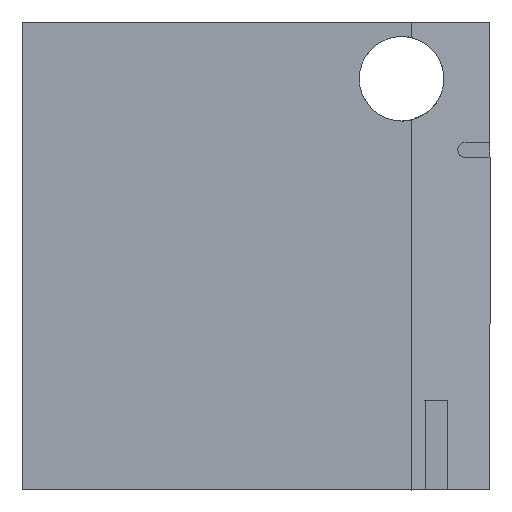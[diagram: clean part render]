
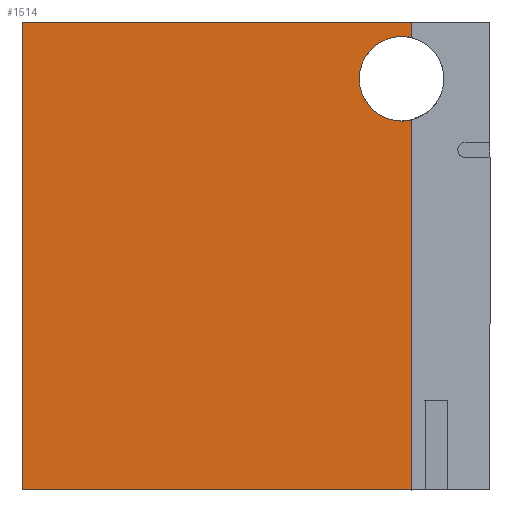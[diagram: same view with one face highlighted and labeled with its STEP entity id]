
A CAD part, left-side view. The second image highlights one B-rep face of the part: STEP entity #1514.
In plain terms, the highlighted planar face has unit normal (-1, 0, 0).
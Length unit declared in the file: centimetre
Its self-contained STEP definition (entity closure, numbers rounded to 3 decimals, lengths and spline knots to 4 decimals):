
#10 = ORIENTED_EDGE ( 'NONE', *, *, #406, .T. ) ;
#26 = ORIENTED_EDGE ( 'NONE', *, *, #762, .F. ) ;
#31 = AXIS2_PLACEMENT_3D ( 'NONE', #1183, #263, #793 ) ;
#51 = DIRECTION ( 'NONE',  ( 0., 0., 1. ) ) ;
#113 = DIRECTION ( 'NONE',  ( 0., 0., 1. ) ) ;
#123 = CIRCLE ( 'NONE', #618, 90.3704 ) ;
#141 = PLANE ( 'NONE',  #833 ) ;
#162 = ORIENTED_EDGE ( 'NONE', *, *, #1385, .F. ) ;
#178 = DIRECTION ( 'NONE',  ( 0., 0., 1. ) ) ;
#180 = EDGE_CURVE ( 'NONE', #1190, #1130, #602, .T. ) ;
#231 = VERTEX_POINT ( 'NONE', #1111 ) ;
#232 = CARTESIAN_POINT ( 'NONE',  ( 0., 188.8959, 878.6459 ) ) ;
#263 = DIRECTION ( 'NONE',  ( -1., 0., 0. ) ) ;
#269 = EDGE_LOOP ( 'NONE', ( #1341, #955, #162, #26, #1289, #784, #10, #286 ) ) ;
#271 = DIRECTION ( 'NONE',  ( 0., 0., -1. ) ) ;
#286 = ORIENTED_EDGE ( 'NONE', *, *, #180, .T. ) ;
#298 = CARTESIAN_POINT ( 'NONE',  ( 0., 168.3395, 1000. ) ) ;
#322 = CARTESIAN_POINT ( 'NONE',  ( 0., 168.3395, 790.6445 ) ) ;
#406 = EDGE_CURVE ( 'NONE', #1395, #1190, #1316, .T. ) ;
#434 = CARTESIAN_POINT ( 'NONE',  ( 0., 188.8959, 788.2755 ) ) ;
#480 = VECTOR ( 'NONE', #113, 100. ) ;
#486 = VERTEX_POINT ( 'NONE', #1507 ) ;
#517 = EDGE_CURVE ( 'NONE', #1395, #538, #1252, .T. ) ;
#538 = VERTEX_POINT ( 'NONE', #1653 ) ;
#602 = LINE ( 'NONE', #1136, #1247 ) ;
#618 = AXIS2_PLACEMENT_3D ( 'NONE', #962, #1093, #178 ) ;
#701 = CARTESIAN_POINT ( 'NONE',  ( 0., 168.3395, 0. ) ) ;
#749 = CARTESIAN_POINT ( 'NONE',  ( 0., 168.3395, 1000. ) ) ;
#762 = EDGE_CURVE ( 'NONE', #486, #231, #1187, .T. ) ;
#766 = DIRECTION ( 'NONE',  ( -1., 0., 0. ) ) ;
#770 = LINE ( 'NONE', #749, #480 ) ;
#784 = ORIENTED_EDGE ( 'NONE', *, *, #517, .F. ) ;
#793 = DIRECTION ( 'NONE',  ( 0., 0., 1. ) ) ;
#808 = CARTESIAN_POINT ( 'NONE',  ( 0., 1000., 1000. ) ) ;
#833 = AXIS2_PLACEMENT_3D ( 'NONE', #1195, #1448, #271 ) ;
#925 = EDGE_CURVE ( 'NONE', #1130, #1589, #770, .T. ) ;
#955 = ORIENTED_EDGE ( 'NONE', *, *, #1634, .F. ) ;
#962 = CARTESIAN_POINT ( 'NONE',  ( 0., 188.8959, 878.6459 ) ) ;
#973 = DIRECTION ( 'NONE',  ( 0., -1., 0. ) ) ;
#976 = LINE ( 'NONE', #298, #1046 ) ;
#977 = VERTEX_POINT ( 'NONE', #434 ) ;
#1046 = VECTOR ( 'NONE', #51, 100. ) ;
#1070 = VECTOR ( 'NONE', #1641, 100. ) ;
#1093 = DIRECTION ( 'NONE',  ( -1., 0., 0. ) ) ;
#1111 = CARTESIAN_POINT ( 'NONE',  ( 0., 188.8959, 969.0163 ) ) ;
#1113 = CARTESIAN_POINT ( 'NONE',  ( 0., 1000., 0. ) ) ;
#1130 = VERTEX_POINT ( 'NONE', #701 ) ;
#1136 = CARTESIAN_POINT ( 'NONE',  ( 0., 1000., 0. ) ) ;
#1138 = EDGE_CURVE ( 'NONE', #486, #538, #976, .T. ) ;
#1183 = CARTESIAN_POINT ( 'NONE',  ( 0., 188.8959, 878.6459 ) ) ;
#1187 = CIRCLE ( 'NONE', #31, 90.3704 ) ;
#1190 = VERTEX_POINT ( 'NONE', #1113 ) ;
#1191 = CARTESIAN_POINT ( 'NONE',  ( 0., 1000., 1000. ) ) ;
#1195 = CARTESIAN_POINT ( 'NONE',  ( 0., 1000., 1000. ) ) ;
#1236 = VECTOR ( 'NONE', #1326, 100. ) ;
#1247 = VECTOR ( 'NONE', #973, 100. ) ;
#1252 = LINE ( 'NONE', #1614, #1070 ) ;
#1286 = DIRECTION ( 'NONE',  ( 0., 0., 1. ) ) ;
#1289 = ORIENTED_EDGE ( 'NONE', *, *, #1138, .T. ) ;
#1316 = LINE ( 'NONE', #808, #1236 ) ;
#1326 = DIRECTION ( 'NONE',  ( 0., 0., -1. ) ) ;
#1341 = ORIENTED_EDGE ( 'NONE', *, *, #925, .T. ) ;
#1347 = AXIS2_PLACEMENT_3D ( 'NONE', #232, #766, #1286 ) ;
#1385 = EDGE_CURVE ( 'NONE', #231, #977, #1456, .T. ) ;
#1395 = VERTEX_POINT ( 'NONE', #1191 ) ;
#1448 = DIRECTION ( 'NONE',  ( 1., 0., 0. ) ) ;
#1454 = FACE_OUTER_BOUND ( 'NONE', #269, .T. ) ;
#1456 = CIRCLE ( 'NONE', #1347, 90.3704 ) ;
#1507 = CARTESIAN_POINT ( 'NONE',  ( 0., 168.3395, 966.6473 ) ) ;
#1514 = ADVANCED_FACE ( 'NONE', ( #1454 ), #141, .F. ) ;
#1589 = VERTEX_POINT ( 'NONE', #322 ) ;
#1614 = CARTESIAN_POINT ( 'NONE',  ( 0., 1000., 1000. ) ) ;
#1634 = EDGE_CURVE ( 'NONE', #977, #1589, #123, .T. ) ;
#1641 = DIRECTION ( 'NONE',  ( 0., -1., 0. ) ) ;
#1653 = CARTESIAN_POINT ( 'NONE',  ( 0., 168.3395, 1000. ) ) ;
